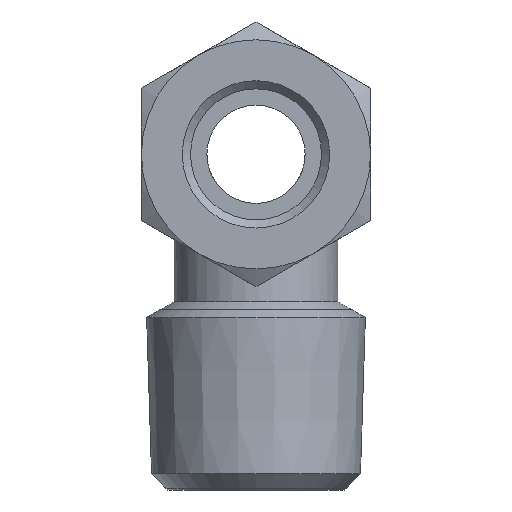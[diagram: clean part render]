
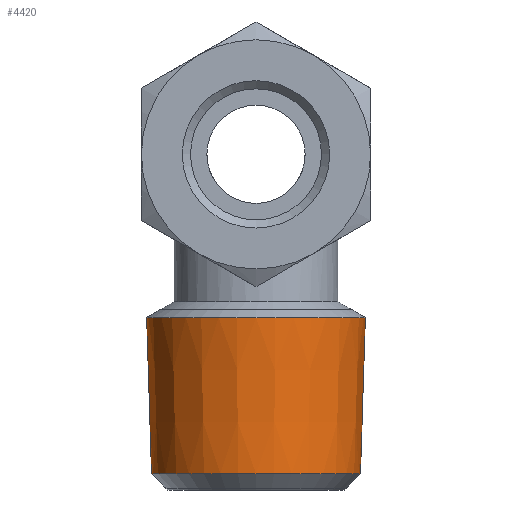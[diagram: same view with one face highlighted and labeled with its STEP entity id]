
A CAD part, left-side view. The second image highlights one B-rep face of the part: STEP entity #4420.
In plain terms, the highlighted conical face has half-angle 1.79 degrees and reference radius 6.679 mm.
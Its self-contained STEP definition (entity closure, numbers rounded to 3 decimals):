
#4420=ADVANCED_FACE('', (#4430,#4440), #4450, .T.);
#14050=AXIS2_PLACEMENT_3D('Ax2Pl3d', #14060, #14070, #14080);
#14090=AXIS2_PLACEMENT_3D('Ax2Pl3d', #14100, #14110, #14120);
#14130=AXIS2_PLACEMENT_3D('Ax2Pl3d', #14140, #14150, #14160);
#14060=CARTESIAN_POINT('HicPkt', (32.294,0.,18.966));
#47170=CARTESIAN_POINT('', (32.294,-6.679,18.966));
#14100=CARTESIAN_POINT('HicPkt', (32.294,0.,18.966));
#14140=CARTESIAN_POINT('HicPkt', (32.294,0.,9.435));
#47180=CARTESIAN_POINT('', (32.294,-6.382,9.435));
#48170=CIRCLE('Circle', #14050, 6.679);
#48180=CIRCLE('Circle', #14130, 6.382);
#4450=CONICAL_SURFACE('Kegel', #14090, 6.679, 
0.031);
#14070=DIRECTION('Axis', (0.,0.,1.));
#14080=DIRECTION('RefDirection', (1.,0.,-0.));
#14110=DIRECTION('Axis', (0.,0.,1.));
#14120=DIRECTION('RefDirection', (1.,0.,-0.));
#14150=DIRECTION('Axis', (0.,0.,-1.));
#14160=DIRECTION('RefDirection', (-1.,-0.,0.));
#60510=EDGE_CURVE('', #60520, #60520, #48170, .T.);
#60530=EDGE_CURVE('', #60540, #60540, #48180, .T.);
#66870=EDGE_LOOP('Edge_loop', (#66880));
#66890=EDGE_LOOP('Edge_loop', (#66900));
#4440=FACE_BOUND('', #66890, .T.);
#4430=FACE_OUTER_BOUND('Face_outer_bound', #66870, .T.);
#66880=ORIENTED_EDGE('', *, *, #60510, .F.);
#66900=ORIENTED_EDGE('', *, *, #60530, .F.);
#60520=VERTEX_POINT('', #47170);
#60540=VERTEX_POINT('', #47180);
